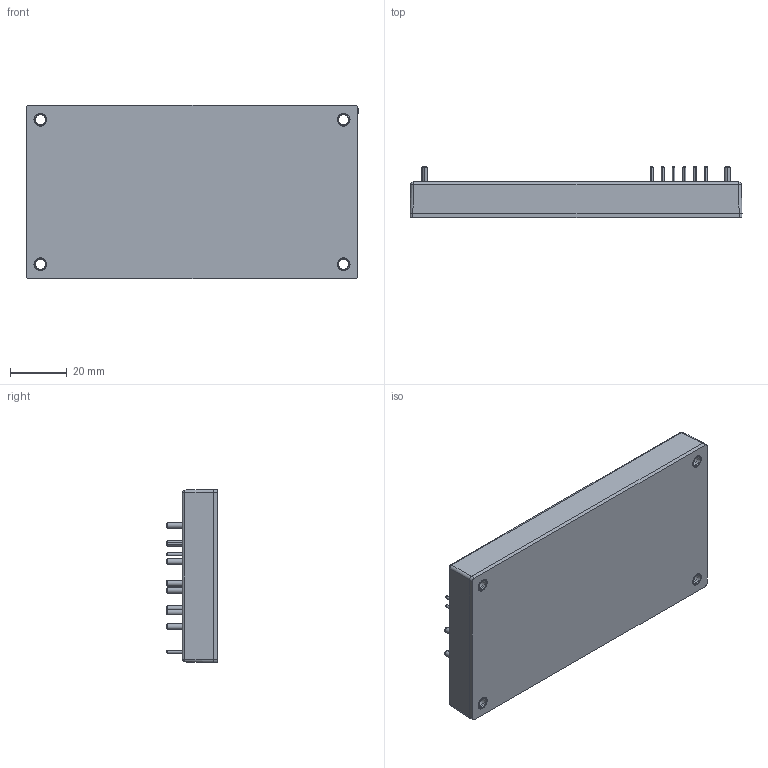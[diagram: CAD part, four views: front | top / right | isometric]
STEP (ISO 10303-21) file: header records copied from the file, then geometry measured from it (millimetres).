
FILE_DESCRIPTION (( 'STEP AP214' ), '1' );
FILE_NAME ('QHL600_01.STEP', '2019-05-07T11:59:27', ( '' ), ( '' ), 'SwSTEP 2.0', 'SolidWorks 2017', '' );
FILE_SCHEMA (( 'AUTOMOTIVE_DESIGN' ));
Length unit declared in the file: millimetre
Products named in the file (24): QHL600_01; QHL600 11; QHL600 12; QHL600 3; QHL600 CASE; QHL600 15; QHL600 14; QHL600 10; QHL600 8; QHL600 2; QHL600 13; QHL600 BASE; QHL600 BODY; QHL600 1; QHL600 18; QHL600 16; QHL600 17; QHL600 PCB ASSY; QHL600 9; QHL600 PCB; QHL600 4; QHL600 7; QHL600 6; QHL600 5
Assembly tree (26 placements, depth 3):
  QHL600_01
    QHL600 CASE
    QHL600 BASE
    QHL600 PCB ASSY
      QHL600 PCB
      QHL600 1  x4
    QHL600 BODY
      QHL600 2
      QHL600 3
      QHL600 4
      QHL600 5
      QHL600 6
      QHL600 7
      QHL600 8
      QHL600 9
      QHL600 10
      QHL600 11
      QHL600 12
      QHL600 13
      QHL600 14
      QHL600 15
      QHL600 16
      QHL600 17
      QHL600 18
Bounding box: 116.8 x 18 x 61 mm (x, y, z)
Volume: 83048 mm3; surface area: 56426.9 mm2
Topology: 24 solids, 24 shells, 1198 faces, 3140 edges, 2076 vertices
Faces by surface type: plane 677, cylinder 255, bspline 210, cone 56
Entity records: 41307 total; most frequent: CARTESIAN_POINT 17808, ORIENTED_EDGE 5008, DIRECTION 3943, EDGE_CURVE 2504, VERTEX_POINT 1653, LINE 1633, VECTOR 1633, AXIS2_PLACEMENT_3D 1155
